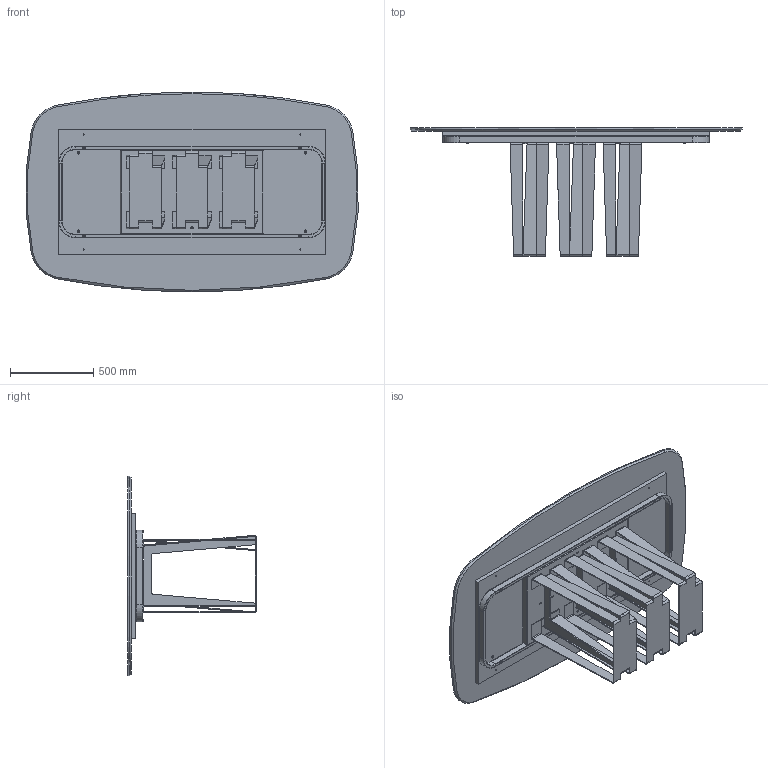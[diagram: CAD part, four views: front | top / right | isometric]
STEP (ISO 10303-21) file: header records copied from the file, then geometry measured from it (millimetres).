
FILE_DESCRIPTION (( 'STEP AP203' ), '1' );
FILE_NAME ('NA41M.STEP', '2024-08-07T14:40:54', ( '' ), ( '' ), 'SwSTEP 2.0', 'SolidWorks 2022', '' );
FILE_SCHEMA (( 'CONFIG_CONTROL_DESIGN' ));
Length unit declared in the file: millimetre
Products named in the file (9): NA41M; M4X-00-Piani Sagomati in marmo_2000 x 1200; M8xXXmm_M8x55mm; TRUXXXXXX-00-NOBILITATO GR CON SUPP TRUCIOLARE SP. 25_TRU00004_1600x720; TTAV01_01-01-TELAIO UNIVERSALE X TAVOLI 180 240cm_Default<A macchina>; TTAV01-01-TELAIO UNIVERSALE X TAVOLI 180 240cm; NAB000000-00-NARCISO BASE SING. GREZZA; M4XMXX-00-Piani Sagomati in marmo_2000x1200; TTAV01_02-01-VASSOIO IRRIGIDIMENTO TELAIO UNIVERSALE
Assembly tree (19 placements, depth 3):
  NA41M
    M4XMXX-00-Piani Sagomati in marmo_2000x1200
      M4X-00-Piani Sagomati in marmo_2000 x 1200
      TRUXXXXXX-00-NOBILITATO GR CON SUPP TRUCIOLARE SP. 25_TRU00004_1600x720
    TTAV01-01-TELAIO UNIVERSALE X TAVOLI 180 240cm
      TTAV01_01-01-TELAIO UNIVERSALE X TAVOLI 180 240cm_Default<A macchina>
      TTAV01_02-01-VASSOIO IRRIGIDIMENTO TELAIO UNIVERSALE
    NAB000000-00-NARCISO BASE SING. GREZZA  x3
    M8xXXmm_M8x55mm  x10
Bounding box: 1992.14 x 770 x 1200 mm (x, y, z)
Volume: 85034711.5 mm3; surface area: 11887459.1 mm2
Topology: 27 solids, 27 shells, 1167 faces, 2859 edges, 1721 vertices
Faces by surface type: plane 583, cylinder 313, cone 163, torus 72, bspline 36
Entity records: 19765 total; most frequent: CARTESIAN_POINT 3521, DIRECTION 3232, ORIENTED_EDGE 3042, EDGE_CURVE 1521, AXIS2_PLACEMENT_3D 1152, VERTEX_POINT 965, LINE 928, VECTOR 928
